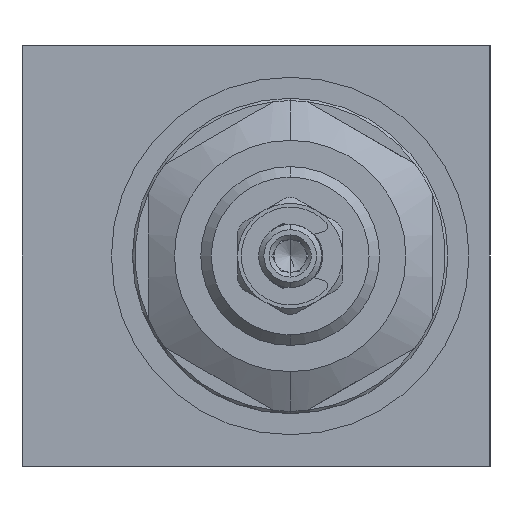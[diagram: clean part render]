
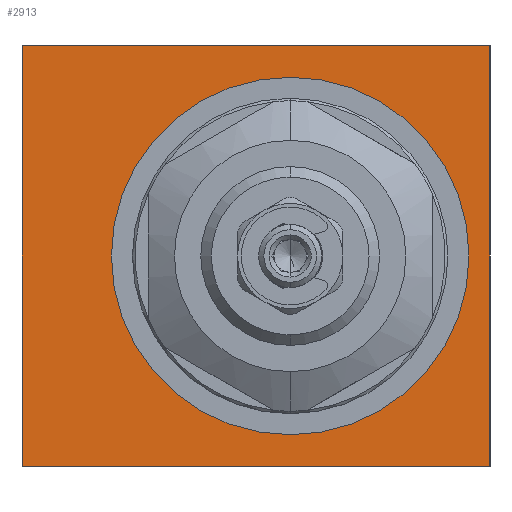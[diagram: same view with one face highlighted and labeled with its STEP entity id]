
A CAD part, left-side view. The second image highlights one B-rep face of the part: STEP entity #2913.
In plain terms, the highlighted planar face has unit normal (-1, 0, 0).
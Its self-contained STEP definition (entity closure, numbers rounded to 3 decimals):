
#59 = EDGE_CURVE ( 'NONE', #9170, #3196, #11456, .T. ) ;
#310 = LINE ( 'NONE', #7646, #9378 ) ;
#323 = CARTESIAN_POINT ( 'NONE',  ( 0., 22.25, -20. ) ) ;
#365 = CARTESIAN_POINT ( 'NONE',  ( 0., -22.25, -20. ) ) ;
#371 = DIRECTION ( 'NONE',  ( 0., -1., 0. ) ) ;
#1002 = EDGE_CURVE ( 'NONE', #4318, #8668, #310, .T. ) ;
#1029 = EDGE_CURVE ( 'NONE', #4016, #4318, #13529, .T. ) ;
#1031 = EDGE_CURVE ( 'NONE', #7157, #4016, #6106, .T. ) ;
#1034 = EDGE_CURVE ( 'NONE', #8668, #7157, #9919, .T. ) ;
#1046 = EDGE_CURVE ( 'NONE', #3196, #9170, #13475, .T. ) ;
#1984 = CARTESIAN_POINT ( 'NONE',  ( 0., -3.25, 17. ) ) ;
#2011 = CARTESIAN_POINT ( 'NONE',  ( 0., -22.25, 20. ) ) ;
#2913 = ADVANCED_FACE ( 'NONE', ( #4529, #4477 ), #5169, .T. ) ;
#3196 = VERTEX_POINT ( 'NONE', #1984 ) ;
#3776 = AXIS2_PLACEMENT_3D ( 'NONE', #9091, #9126, #9129 ) ;
#4016 = VERTEX_POINT ( 'NONE', #11445 ) ;
#4318 = VERTEX_POINT ( 'NONE', #365 ) ;
#4372 = EDGE_LOOP ( 'NONE', ( #12640, #12090 ) ) ;
#4477 = FACE_BOUND ( 'NONE', #4372, .T. ) ;
#4529 = FACE_OUTER_BOUND ( 'NONE', #7667, .T. ) ;
#4897 = DIRECTION ( 'NONE',  ( 0., 0., 1. ) ) ;
#4913 = DIRECTION ( 'NONE',  ( -1., 0., 0. ) ) ;
#4929 = CARTESIAN_POINT ( 'NONE',  ( 0., 22.25, -20. ) ) ;
#5169 = PLANE ( 'NONE',  #11345 ) ;
#5962 = ORIENTED_EDGE ( 'NONE', *, *, #1002, .F. ) ;
#6106 = LINE ( 'NONE', #9935, #13499 ) ;
#6274 = ORIENTED_EDGE ( 'NONE', *, *, #1031, .F. ) ;
#6308 = ORIENTED_EDGE ( 'NONE', *, *, #1034, .F. ) ;
#7157 = VERTEX_POINT ( 'NONE', #7208 ) ;
#7208 = CARTESIAN_POINT ( 'NONE',  ( 0., 22.25, 20. ) ) ;
#7646 = CARTESIAN_POINT ( 'NONE',  ( 0., -22.25, -20. ) ) ;
#7665 = VECTOR ( 'NONE', #13431, 1000. ) ;
#7667 = EDGE_LOOP ( 'NONE', ( #5962, #13186, #6274, #6308 ) ) ;
#8668 = VERTEX_POINT ( 'NONE', #323 ) ;
#9091 = CARTESIAN_POINT ( 'NONE',  ( 0., -3.25, 0. ) ) ;
#9126 = DIRECTION ( 'NONE',  ( -1., 0., 0. ) ) ;
#9129 = DIRECTION ( 'NONE',  ( 0., 0., 1. ) ) ;
#9170 = VERTEX_POINT ( 'NONE', #13598 ) ;
#9378 = VECTOR ( 'NONE', #9733, 1000. ) ;
#9733 = DIRECTION ( 'NONE',  ( 0., 1., 0. ) ) ;
#9919 = LINE ( 'NONE', #12728, #7665 ) ;
#9935 = CARTESIAN_POINT ( 'NONE',  ( 0., -22.25, 20. ) ) ;
#11345 = AXIS2_PLACEMENT_3D ( 'NONE', #4929, #4913, #4897 ) ;
#11445 = CARTESIAN_POINT ( 'NONE',  ( 0., -22.25, 20. ) ) ;
#11456 = CIRCLE ( 'NONE', #3776, 17. ) ;
#11689 = VECTOR ( 'NONE', #12574, 1000. ) ;
#12090 = ORIENTED_EDGE ( 'NONE', *, *, #59, .F. ) ;
#12574 = DIRECTION ( 'NONE',  ( 0., 0., -1. ) ) ;
#12640 = ORIENTED_EDGE ( 'NONE', *, *, #1046, .F. ) ;
#12728 = CARTESIAN_POINT ( 'NONE',  ( 0., 22.25, 20. ) ) ;
#13186 = ORIENTED_EDGE ( 'NONE', *, *, #1029, .F. ) ;
#13247 = AXIS2_PLACEMENT_3D ( 'NONE', #13782, #13795, #13707 ) ;
#13431 = DIRECTION ( 'NONE',  ( 0., 0., 1. ) ) ;
#13475 = CIRCLE ( 'NONE', #13247, 17. ) ;
#13499 = VECTOR ( 'NONE', #371, 1000. ) ;
#13529 = LINE ( 'NONE', #2011, #11689 ) ;
#13598 = CARTESIAN_POINT ( 'NONE',  ( 0., -3.25, -17. ) ) ;
#13707 = DIRECTION ( 'NONE',  ( 0., 0., 1. ) ) ;
#13782 = CARTESIAN_POINT ( 'NONE',  ( 0., -3.25, 0. ) ) ;
#13795 = DIRECTION ( 'NONE',  ( -1., 0., 0. ) ) ;
